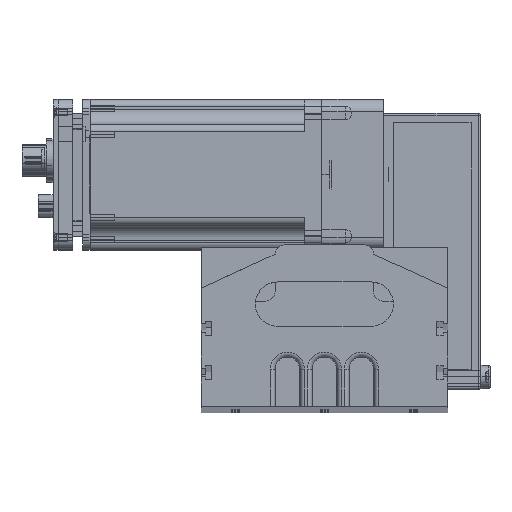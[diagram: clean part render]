
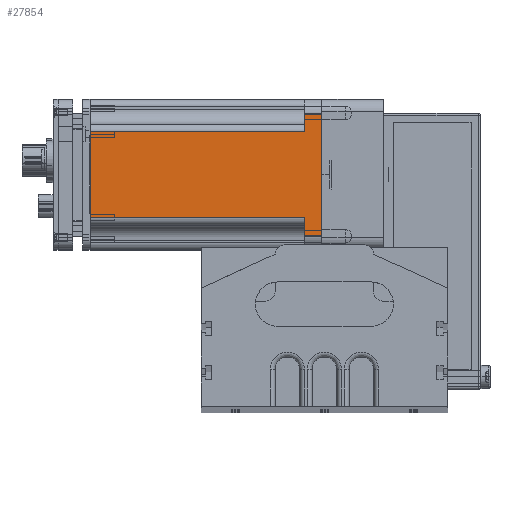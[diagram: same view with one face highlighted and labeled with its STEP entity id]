
A CAD part, top view. The second image highlights one B-rep face of the part: STEP entity #27854.
In plain terms, the highlighted planar face has unit normal (0, 0, 1).
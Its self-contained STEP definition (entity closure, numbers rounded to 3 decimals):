
#3732 = VERTEX_POINT ( 'NONE', #5042 ) ;
#3735 = VERTEX_POINT ( 'NONE', #4731 ) ;
#4731 = CARTESIAN_POINT ( 'NONE',  ( -17.5, 7., 30.5 ) ) ;
#5042 = CARTESIAN_POINT ( 'NONE',  ( -24.5, 7., 30.5 ) ) ;
#7556 = DIRECTION ( 'NONE',  ( 1., 0., 0. ) ) ;
#7569 = VECTOR ( 'NONE', #7556, 1000. ) ;
#7570 = CARTESIAN_POINT ( 'NONE',  ( -24.5, 7., 30.5 ) ) ;
#7580 = LINE ( 'NONE', #7570, #7569 ) ;
#7887 = DIRECTION ( 'NONE',  ( 0., 1., 0. ) ) ;
#7888 = VECTOR ( 'NONE', #7887, 1000. ) ;
#7899 = CARTESIAN_POINT ( 'NONE',  ( -24.5, 7., 30.5 ) ) ;
#7900 = LINE ( 'NONE', #7899, #7888 ) ;
#7911 = CARTESIAN_POINT ( 'NONE',  ( -24.5, 0., 30.5 ) ) ;
#8440 = CARTESIAN_POINT ( 'NONE',  ( -17.5, 94., 30.5 ) ) ;
#8443 = CARTESIAN_POINT ( 'NONE',  ( 24.5, 0., 30.5 ) ) ;
#8521 = DIRECTION ( 'NONE',  ( 0., 1., 0. ) ) ;
#8522 = CARTESIAN_POINT ( 'NONE',  ( -17.5, 7., 30.5 ) ) ;
#8523 = LINE ( 'NONE', #8522, #8571 ) ;
#8546 = FACE_OUTER_BOUND ( 'NONE', #27675, .T. ) ;
#8549 = DIRECTION ( 'NONE',  ( 1., 0., 0. ) ) ;
#8550 = VECTOR ( 'NONE', #8549, 1000. ) ;
#8551 = CARTESIAN_POINT ( 'NONE',  ( 26.5, 94., 30.5 ) ) ;
#8552 = LINE ( 'NONE', #8551, #8550 ) ;
#8571 = VECTOR ( 'NONE', #8521, 1000. ) ;
#8578 = DIRECTION ( 'NONE',  ( 0., 0., -1. ) ) ;
#8582 = CARTESIAN_POINT ( 'NONE',  ( 17.5, 94., 30.5 ) ) ;
#8590 = CARTESIAN_POINT ( 'NONE',  ( -24.5, 7., 30.5 ) ) ;
#8593 = PLANE ( 'NONE',  #8598 ) ;
#8598 = AXIS2_PLACEMENT_3D ( 'NONE', #8590, #8578, #8643 ) ;
#8620 = DIRECTION ( 'NONE',  ( 1., 0., 0. ) ) ;
#8621 = VECTOR ( 'NONE', #8620, 1000. ) ;
#8624 = DIRECTION ( 'NONE',  ( 0., -1., 0. ) ) ;
#8625 = VECTOR ( 'NONE', #8624, 1000. ) ;
#8626 = CARTESIAN_POINT ( 'NONE',  ( 24.5, 7., 30.5 ) ) ;
#8627 = LINE ( 'NONE', #8626, #8625 ) ;
#8634 = CARTESIAN_POINT ( 'NONE',  ( -24.5, 0., 30.5 ) ) ;
#8635 = LINE ( 'NONE', #8634, #8621 ) ;
#8639 = CARTESIAN_POINT ( 'NONE',  ( 17.5, 7., 30.5 ) ) ;
#8641 = CARTESIAN_POINT ( 'NONE',  ( 24.5, 7., 30.5 ) ) ;
#8643 = DIRECTION ( 'NONE',  ( -1., 0., 0. ) ) ;
#8644 = LINE ( 'NONE', #8690, #8689 ) ;
#8678 = DIRECTION ( 'NONE',  ( 0., -1., 0. ) ) ;
#8679 = VECTOR ( 'NONE', #8678, 1000. ) ;
#8681 = CARTESIAN_POINT ( 'NONE',  ( 17.5, 95.35, 30.5 ) ) ;
#8683 = LINE ( 'NONE', #8681, #8679 ) ;
#8688 = DIRECTION ( 'NONE',  ( 1., 0., 0. ) ) ;
#8689 = VECTOR ( 'NONE', #8688, 1000. ) ;
#8690 = CARTESIAN_POINT ( 'NONE',  ( -24.5, 7., 30.5 ) ) ;
#26837 = EDGE_CURVE ( 'NONE', #3732, #3735, #7580, .T. ) ;
#27123 = EDGE_CURVE ( 'NONE', #27157, #3732, #7900, .T. ) ;
#27157 = VERTEX_POINT ( 'NONE', #7911 ) ;
#27669 = VERTEX_POINT ( 'NONE', #8440 ) ;
#27671 = VERTEX_POINT ( 'NONE', #8443 ) ;
#27675 = EDGE_LOOP ( 'NONE', ( #27763, #27755, #27879, #27848, #27874, #27968, #27861, #27821 ) ) ;
#27755 = ORIENTED_EDGE ( 'NONE', *, *, #26837, .F. ) ;
#27763 = ORIENTED_EDGE ( 'NONE', *, *, #27778, .F. ) ;
#27778 = EDGE_CURVE ( 'NONE', #3735, #27669, #8523, .T. ) ;
#27815 = EDGE_CURVE ( 'NONE', #27669, #27864, #8552, .T. ) ;
#27821 = ORIENTED_EDGE ( 'NONE', *, *, #27815, .F. ) ;
#27848 = ORIENTED_EDGE ( 'NONE', *, *, #27887, .T. ) ;
#27854 = ADVANCED_FACE ( 'NONE', ( #8546 ), #8593, .F. ) ;
#27861 = ORIENTED_EDGE ( 'NONE', *, *, #27969, .F. ) ;
#27864 = VERTEX_POINT ( 'NONE', #8582 ) ;
#27868 = VERTEX_POINT ( 'NONE', #8641 ) ;
#27874 = ORIENTED_EDGE ( 'NONE', *, *, #27883, .F. ) ;
#27879 = ORIENTED_EDGE ( 'NONE', *, *, #27123, .F. ) ;
#27880 = VERTEX_POINT ( 'NONE', #8639 ) ;
#27883 = EDGE_CURVE ( 'NONE', #27868, #27671, #8627, .T. ) ;
#27887 = EDGE_CURVE ( 'NONE', #27157, #27671, #8635, .T. ) ;
#27961 = EDGE_CURVE ( 'NONE', #27880, #27868, #8644, .T. ) ;
#27968 = ORIENTED_EDGE ( 'NONE', *, *, #27961, .F. ) ;
#27969 = EDGE_CURVE ( 'NONE', #27864, #27880, #8683, .T. ) ;
